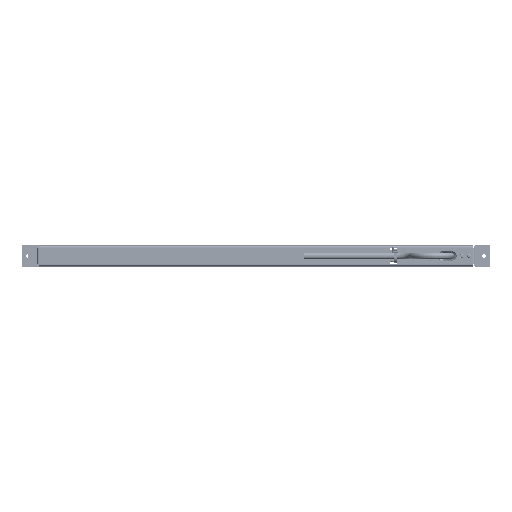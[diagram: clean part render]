
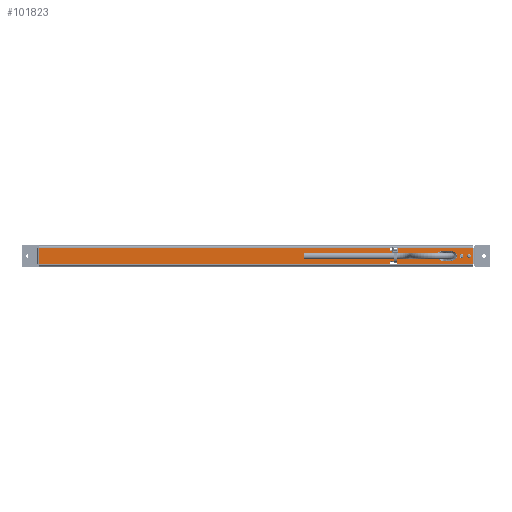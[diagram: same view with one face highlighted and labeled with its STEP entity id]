
A CAD part, top view. The second image highlights one B-rep face of the part: STEP entity #101823.
In plain terms, the highlighted planar face has unit normal (0, 0, 1).
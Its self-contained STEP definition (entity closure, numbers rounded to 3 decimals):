
#99251=CARTESIAN_POINT('',(244.878,8.5,40.7));
#99252=VERTEX_POINT('',#99251);
#99253=CARTESIAN_POINT('',(245.378,8.0,40.7));
#99254=VERTEX_POINT('',#99253);
#99255=CARTESIAN_POINT('',(244.878,8.0,40.7));
#99256=DIRECTION('',(0.0,0.0,-1.0));
#99257=DIRECTION('',(0.0,-1.0,0.0));
#99258=AXIS2_PLACEMENT_3D('',#99255,#99256,#99257);
#99259=CIRCLE('',#99258,0.5);
#99260=EDGE_CURVE('',#99252,#99254,#99259,.T.);
#99293=CARTESIAN_POINT('',(245.378,6.,40.7));
#99294=VERTEX_POINT('',#99293);
#99295=CARTESIAN_POINT('',(245.378,8.0,40.7));
#99296=DIRECTION('',(0.0,-1.0,0.0));
#99297=VECTOR('',#99296,2.);
#99298=LINE('',#99295,#99297);
#99299=EDGE_CURVE('',#99254,#99294,#99298,.T.);
#99324=CARTESIAN_POINT('',(244.878,5.5,40.7));
#99325=VERTEX_POINT('',#99324);
#99326=CARTESIAN_POINT('',(244.878,6.,40.7));
#99327=DIRECTION('',(0.0,0.0,-1.0));
#99328=DIRECTION('',(-1.0,0.0,0.0));
#99329=AXIS2_PLACEMENT_3D('',#99326,#99327,#99328);
#99330=CIRCLE('',#99329,0.5);
#99331=EDGE_CURVE('',#99294,#99325,#99330,.T.);
#99357=CARTESIAN_POINT('',(237.878,5.5,40.7));
#99358=VERTEX_POINT('',#99357);
#99359=CARTESIAN_POINT('',(244.878,5.5,40.7));
#99360=DIRECTION('',(-1.0,0.0,0.0));
#99361=VECTOR('',#99360,7.0);
#99362=LINE('',#99359,#99361);
#99363=EDGE_CURVE('',#99325,#99358,#99362,.T.);
#99388=CARTESIAN_POINT('',(237.378,6.,40.7));
#99389=VERTEX_POINT('',#99388);
#99390=CARTESIAN_POINT('',(237.878,6.,40.7));
#99391=DIRECTION('',(0.0,0.0,-1.0));
#99392=DIRECTION('',(0.0,1.0,0.0));
#99393=AXIS2_PLACEMENT_3D('',#99390,#99391,#99392);
#99394=CIRCLE('',#99393,0.5);
#99395=EDGE_CURVE('',#99358,#99389,#99394,.T.);
#99421=CARTESIAN_POINT('',(237.378,8.0,40.7));
#99422=VERTEX_POINT('',#99421);
#99423=CARTESIAN_POINT('',(237.378,6.,40.7));
#99424=DIRECTION('',(0.0,1.0,0.0));
#99425=VECTOR('',#99424,2.);
#99426=LINE('',#99423,#99425);
#99427=EDGE_CURVE('',#99389,#99422,#99426,.T.);
#99452=CARTESIAN_POINT('',(237.878,8.5,40.7));
#99453=VERTEX_POINT('',#99452);
#99454=CARTESIAN_POINT('',(237.878,8.,40.7));
#99455=DIRECTION('',(0.0,0.0,-1.0));
#99456=DIRECTION('',(1.0,0.0,0.0));
#99457=AXIS2_PLACEMENT_3D('',#99454,#99455,#99456);
#99458=CIRCLE('',#99457,0.5);
#99459=EDGE_CURVE('',#99422,#99453,#99458,.T.);
#99485=CARTESIAN_POINT('',(237.878,8.5,40.7));
#99486=DIRECTION('',(1.0,0.0,0.0));
#99487=VECTOR('',#99486,7.0);
#99488=LINE('',#99485,#99487);
#99489=EDGE_CURVE('',#99453,#99252,#99488,.T.);
#99507=CARTESIAN_POINT('',(244.878,-5.5,40.7));
#99508=VERTEX_POINT('',#99507);
#99509=CARTESIAN_POINT('',(245.378,-6.,40.7));
#99510=VERTEX_POINT('',#99509);
#99511=CARTESIAN_POINT('',(244.878,-6.,40.7));
#99512=DIRECTION('',(0.0,0.0,-1.0));
#99513=DIRECTION('',(0.0,-1.0,0.0));
#99514=AXIS2_PLACEMENT_3D('',#99511,#99512,#99513);
#99515=CIRCLE('',#99514,0.5);
#99516=EDGE_CURVE('',#99508,#99510,#99515,.T.);
#99549=CARTESIAN_POINT('',(245.378,-8.0,40.7));
#99550=VERTEX_POINT('',#99549);
#99551=CARTESIAN_POINT('',(245.378,-6.,40.7));
#99552=DIRECTION('',(0.0,-1.0,0.0));
#99553=VECTOR('',#99552,2.);
#99554=LINE('',#99551,#99553);
#99555=EDGE_CURVE('',#99510,#99550,#99554,.T.);
#99580=CARTESIAN_POINT('',(244.878,-8.5,40.7));
#99581=VERTEX_POINT('',#99580);
#99582=CARTESIAN_POINT('',(244.878,-8.0,40.7));
#99583=DIRECTION('',(0.0,0.0,-1.0));
#99584=DIRECTION('',(-1.0,0.0,0.0));
#99585=AXIS2_PLACEMENT_3D('',#99582,#99583,#99584);
#99586=CIRCLE('',#99585,0.5);
#99587=EDGE_CURVE('',#99550,#99581,#99586,.T.);
#99613=CARTESIAN_POINT('',(237.878,-8.5,40.7));
#99614=VERTEX_POINT('',#99613);
#99615=CARTESIAN_POINT('',(244.878,-8.5,40.7));
#99616=DIRECTION('',(-1.0,0.0,0.0));
#99617=VECTOR('',#99616,7.0);
#99618=LINE('',#99615,#99617);
#99619=EDGE_CURVE('',#99581,#99614,#99618,.T.);
#99644=CARTESIAN_POINT('',(237.378,-8.0,40.7));
#99645=VERTEX_POINT('',#99644);
#99646=CARTESIAN_POINT('',(237.878,-8.0,40.7));
#99647=DIRECTION('',(0.0,0.0,-1.0));
#99648=DIRECTION('',(0.0,1.0,0.0));
#99649=AXIS2_PLACEMENT_3D('',#99646,#99647,#99648);
#99650=CIRCLE('',#99649,0.5);
#99651=EDGE_CURVE('',#99614,#99645,#99650,.T.);
#99677=CARTESIAN_POINT('',(237.378,-6.,40.7));
#99678=VERTEX_POINT('',#99677);
#99679=CARTESIAN_POINT('',(237.378,-8.0,40.7));
#99680=DIRECTION('',(0.0,1.0,0.0));
#99681=VECTOR('',#99680,2.);
#99682=LINE('',#99679,#99681);
#99683=EDGE_CURVE('',#99645,#99678,#99682,.T.);
#99708=CARTESIAN_POINT('',(237.878,-5.5,40.7));
#99709=VERTEX_POINT('',#99708);
#99710=CARTESIAN_POINT('',(237.878,-6.0,40.7));
#99711=DIRECTION('',(0.0,0.0,-1.0));
#99712=DIRECTION('',(1.0,0.0,0.0));
#99713=AXIS2_PLACEMENT_3D('',#99710,#99711,#99712);
#99714=CIRCLE('',#99713,0.5);
#99715=EDGE_CURVE('',#99678,#99709,#99714,.T.);
#99741=CARTESIAN_POINT('',(237.878,-5.5,40.7));
#99742=DIRECTION('',(1.0,0.0,0.0));
#99743=VECTOR('',#99742,7.0);
#99744=LINE('',#99741,#99743);
#99745=EDGE_CURVE('',#99709,#99508,#99744,.T.);
#100157=CARTESIAN_POINT('',(325.978,0.,40.7));
#100158=VERTEX_POINT('',#100157);
#100159=CARTESIAN_POINT('',(323.878,0.,40.7));
#100160=DIRECTION('',(0.0,0.0,-1.0));
#100161=DIRECTION('',(1.0,0.0,0.0));
#100162=AXIS2_PLACEMENT_3D('',#100159,#100160,#100161);
#100163=CIRCLE('',#100162,2.1);
#100164=EDGE_CURVE('',#100158,#100158,#100163,.T.);
#100205=CARTESIAN_POINT('',(317.978,0.,40.7));
#100206=VERTEX_POINT('',#100205);
#100207=CARTESIAN_POINT('',(315.878,0.,40.7));
#100208=DIRECTION('',(0.0,0.0,-1.0));
#100209=DIRECTION('',(1.0,0.0,0.0));
#100210=AXIS2_PLACEMENT_3D('',#100207,#100208,#100209);
#100211=CIRCLE('',#100210,2.1);
#100212=EDGE_CURVE('',#100206,#100206,#100211,.T.);
#100343=CARTESIAN_POINT('',(305.878,5.0,40.7));
#100344=VERTEX_POINT('',#100343);
#100351=CARTESIAN_POINT('',(293.878,5.0,40.7));
#100352=VERTEX_POINT('',#100351);
#100353=CARTESIAN_POINT('',(293.878,5.0,40.7));
#100354=DIRECTION('',(1.0,0.0,0.0));
#100355=VECTOR('',#100354,12.0);
#100356=LINE('',#100353,#100355);
#100357=EDGE_CURVE('',#100352,#100344,#100356,.T.);
#100383=CARTESIAN_POINT('',(293.878,-5.0,40.7));
#100384=VERTEX_POINT('',#100383);
#100391=CARTESIAN_POINT('',(305.878,-5.0,40.7));
#100392=VERTEX_POINT('',#100391);
#100393=CARTESIAN_POINT('',(305.878,-5.0,40.7));
#100394=DIRECTION('',(-1.0,0.0,0.0));
#100395=VECTOR('',#100394,12.);
#100396=LINE('',#100393,#100395);
#100397=EDGE_CURVE('',#100392,#100384,#100396,.T.);
#100421=CARTESIAN_POINT('',(305.878,0.,40.7));
#100422=DIRECTION('',(0.0,0.0,-1.0));
#100423=DIRECTION('',(0.0,1.0,0.0));
#100424=AXIS2_PLACEMENT_3D('',#100421,#100422,#100423);
#100425=CIRCLE('',#100424,5.0);
#100426=EDGE_CURVE('',#100344,#100392,#100425,.T.);
#100445=CARTESIAN_POINT('',(293.878,0.,40.7));
#100446=DIRECTION('',(0.0,0.0,-1.0));
#100447=DIRECTION('',(0.0,-1.0,0.0));
#100448=AXIS2_PLACEMENT_3D('',#100445,#100446,#100447);
#100449=CIRCLE('',#100448,5.0);
#100450=EDGE_CURVE('',#100384,#100352,#100449,.T.);
#101088=CARTESIAN_POINT('',(328.378,-9.,40.7));
#101089=VERTEX_POINT('',#101088);
#101165=CARTESIAN_POINT('',(-145.622,9.,40.7));
#101166=VERTEX_POINT('',#101165);
#101234=CARTESIAN_POINT('',(-145.622,-9.,40.7));
#101235=VERTEX_POINT('',#101234);
#101236=CARTESIAN_POINT('',(-145.622,-9.,40.7));
#101237=DIRECTION('',(1.0,0.0,0.0));
#101238=VECTOR('',#101237,474.);
#101239=LINE('',#101236,#101238);
#101240=EDGE_CURVE('',#101235,#101089,#101239,.T.);
#101331=CARTESIAN_POINT('',(328.378,9.,40.7));
#101332=VERTEX_POINT('',#101331);
#101333=CARTESIAN_POINT('',(328.378,9.,40.7));
#101334=DIRECTION('',(-1.0,0.0,0.0));
#101335=VECTOR('',#101334,474.);
#101336=LINE('',#101333,#101335);
#101337=EDGE_CURVE('',#101332,#101166,#101336,.T.);
#101569=CARTESIAN_POINT('',(328.378,-9.,40.7));
#101570=DIRECTION('',(0.0,1.0,0.0));
#101571=VECTOR('',#101570,18.);
#101572=LINE('',#101569,#101571);
#101573=EDGE_CURVE('',#101089,#101332,#101572,.T.);
#101771=CARTESIAN_POINT('',(-145.622,9.,40.7));
#101772=DIRECTION('',(0.0,-1.0,0.0));
#101773=VECTOR('',#101772,18.0);
#101774=LINE('',#101771,#101773);
#101775=EDGE_CURVE('',#101166,#101235,#101774,.T.);
#101780=CARTESIAN_POINT('',(91.378,0.,40.7));
#101781=DIRECTION('',(0.0,0.0,-1.0));
#101782=DIRECTION('',(-1.0,0.0,0.0));
#101783=AXIS2_PLACEMENT_3D('',#101780,#101781,#101782);
#101784=PLANE('',#101783);
#101785=ORIENTED_EDGE('',*,*,#101337,.T.);
#101786=ORIENTED_EDGE('',*,*,#101775,.T.);
#101787=ORIENTED_EDGE('',*,*,#101240,.T.);
#101788=ORIENTED_EDGE('',*,*,#101573,.T.);
#101789=EDGE_LOOP('',(#101785,#101786,#101787,#101788));
#101790=FACE_OUTER_BOUND('',#101789,.T.);
#101791=ORIENTED_EDGE('',*,*,#99260,.T.);
#101792=ORIENTED_EDGE('',*,*,#99299,.T.);
#101793=ORIENTED_EDGE('',*,*,#99331,.T.);
#101794=ORIENTED_EDGE('',*,*,#99363,.T.);
#101795=ORIENTED_EDGE('',*,*,#99395,.T.);
#101796=ORIENTED_EDGE('',*,*,#99427,.T.);
#101797=ORIENTED_EDGE('',*,*,#99459,.T.);
#101798=ORIENTED_EDGE('',*,*,#99489,.T.);
#101799=EDGE_LOOP('',(#101791,#101792,#101793,#101794,#101795,#101796,#101797,#101798));
#101800=FACE_BOUND('',#101799,.T.);
#101801=ORIENTED_EDGE('',*,*,#99516,.T.);
#101802=ORIENTED_EDGE('',*,*,#99555,.T.);
#101803=ORIENTED_EDGE('',*,*,#99587,.T.);
#101804=ORIENTED_EDGE('',*,*,#99619,.T.);
#101805=ORIENTED_EDGE('',*,*,#99651,.T.);
#101806=ORIENTED_EDGE('',*,*,#99683,.T.);
#101807=ORIENTED_EDGE('',*,*,#99715,.T.);
#101808=ORIENTED_EDGE('',*,*,#99745,.T.);
#101809=EDGE_LOOP('',(#101801,#101802,#101803,#101804,#101805,#101806,#101807,#101808));
#101810=FACE_BOUND('',#101809,.T.);
#101811=ORIENTED_EDGE('',*,*,#100164,.T.);
#101812=EDGE_LOOP('',(#101811));
#101813=FACE_BOUND('',#101812,.T.);
#101814=ORIENTED_EDGE('',*,*,#100212,.T.);
#101815=EDGE_LOOP('',(#101814));
#101816=FACE_BOUND('',#101815,.T.);
#101817=ORIENTED_EDGE('',*,*,#100397,.T.);
#101818=ORIENTED_EDGE('',*,*,#100450,.T.);
#101819=ORIENTED_EDGE('',*,*,#100357,.T.);
#101820=ORIENTED_EDGE('',*,*,#100426,.T.);
#101821=EDGE_LOOP('',(#101817,#101818,#101819,#101820));
#101822=FACE_BOUND('',#101821,.T.);
#101823=ADVANCED_FACE('',(#101790,#101800,#101810,#101813,#101816,#101822),#101784,.F.);
